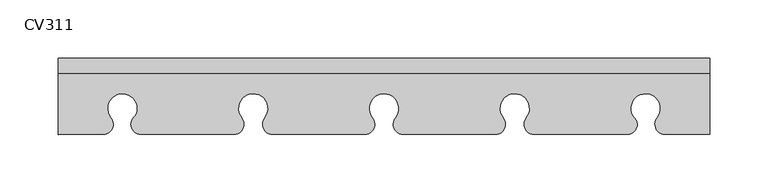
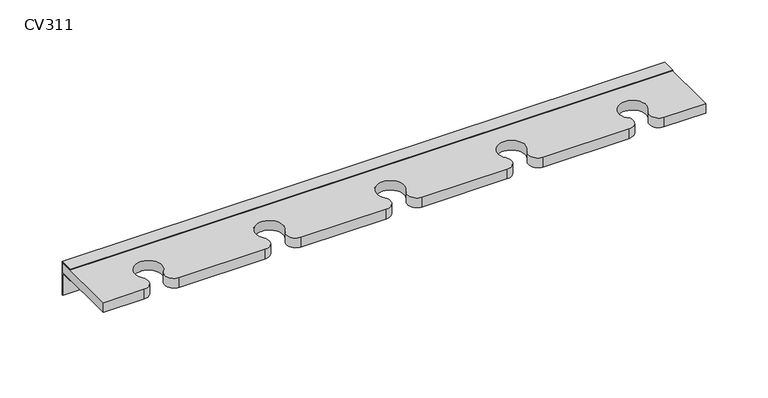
"""IFC4 building model written with IfcOpenShell, lengths in millimetres: furniture geometry, HermanMiller_CoStruc_CV311_DistalTubeBracket : CV311."""

import ifcopenshell
import ifcopenshell.guid

model = None  # the IFC model being written
_history = None  # IfcOwnerHistory: only IFC2X3 demands one
_inside = {}  # id of a spatial element -> (the spatial element, [elements in it])
_under = {}  # id of a project, library or spatial element -> (it, [spatial elements below it])
_declared = {}  # id of a project -> (the project, [libraries it declares])
_typed = {}  # id of a type object -> (the type object, [elements of that type])
_made_of = {}  # id of a material, layer set ... -> (it, [elements and type objects made of it])


def new_model(schema):
    """Start an empty IFC model of exactly this schema.

    Asked for "IFC4X3", IfcOpenShell would pick the latest addendum, in which some entities
    have other attributes; the version numbers below select the first issue.
    IFC2X3 requires an IfcOwnerHistory on every rooted entity: one is made here for all.
    """
    global model, _history
    if schema == "IFC4X3":
        model = ifcopenshell.file(schema_version=(4, 3, 0, 0))
    else:
        model = ifcopenshell.file(schema=schema)
    _inside.clear()
    _under.clear()
    _declared.clear()
    _typed.clear()
    _made_of.clear()
    _history = None
    if model.schema == "IFC2X3":
        org = make("IfcOrganization", Name="unknown")
        user = make(
            "IfcPersonAndOrganization",
            ThePerson=make("IfcPerson", FamilyName="unknown"),
            TheOrganization=org,
        )
        app = make(
            "IfcApplication",
            ApplicationDeveloper=org,
            Version="unknown",
            ApplicationFullName="unknown",
            ApplicationIdentifier="unknown",
        )
        _history = make(
            "IfcOwnerHistory",
            OwningUser=user,
            OwningApplication=app,
            ChangeAction="ADDED",
            CreationDate=0,
        )
    return model


def make(cls, **values):
    """One entity of the class cls with the attributes given. An attribute that is None is left unset."""
    return model.create_entity(
        cls, **{name: value for name, value in values.items() if value is not None}
    )


def rooted(cls, **values):
    """An entity with a GlobalId (a new one), such as an element, a storey or a relation."""
    return make(cls, GlobalId=ifcopenshell.guid.new(), OwnerHistory=_history, **values)


def si_unit(unit_type, name, prefix=None):
    """IfcSIUnit, for example si_unit("LENGTHUNIT", "METRE", prefix="MILLI")."""
    return make("IfcSIUnit", UnitType=unit_type, Prefix=prefix, Name=name)


def assignment(units):
    """IfcUnitAssignment: the units of a project."""
    return None if units is None else make("IfcUnitAssignment", Units=units)


def point(xyz):
    """IfcCartesianPoint."""
    return None if xyz is None else make("IfcCartesianPoint", Coordinates=xyz)


def direction(xyz):
    """IfcDirection."""
    return None if xyz is None else make("IfcDirection", DirectionRatios=xyz)


def frame(location, z_axis=None, x_axis=None):
    """IfcAxis2Placement3D, a coordinate frame: its origin and axes. An axis left out is left unset."""
    return make(
        "IfcAxis2Placement3D",
        Location=point(location),
        Axis=direction(z_axis),
        RefDirection=direction(x_axis),
    )


def origin():
    """The frame at (0, 0, 0) with its axes left unset."""
    return frame((0.0, 0.0, 0.0))


def place(relative_to, where):
    """IfcLocalPlacement: puts the frame where relative to a parent placement (None: the world)."""
    return make(
        "IfcLocalPlacement", PlacementRelTo=relative_to, RelativePlacement=where
    )


def context(
    kind, dimensions, precision=None, world=None, true_north=None, identifier=None
):
    """IfcGeometricRepresentationContext, for example the 3D "Model" context."""
    return make(
        "IfcGeometricRepresentationContext",
        ContextIdentifier=identifier,
        ContextType=kind,
        CoordinateSpaceDimension=dimensions,
        Precision=precision,
        WorldCoordinateSystem=world,
        TrueNorth=true_north,
    )


def project(units=None, contexts=None):
    """IfcProject with its units and contexts."""
    return rooted(
        "IfcProject",
        Name="project",
        RepresentationContexts=contexts,
        UnitsInContext=assignment(units),
    )


def spatial(cls, under=None, at=None, **own):
    """A site, building, storey or space (cls), placed at a placement, below another one or the project."""
    s = rooted(cls, ObjectPlacement=at, **own)
    if under is not None:
        _under.setdefault(under.id(), (under, []))[1].append(s)
    return s


def polyline(points):
    """IfcPolyline through the points."""
    return make("IfcPolyline", Points=[point(p) for p in points])


def circle_curve(where, radius):
    """IfcCircle in the frame where."""
    return make("IfcCircle", Position=where, Radius=radius)


def outline(outer, holes=None, kind="AREA"):
    """IfcArbitraryClosedProfileDef: a profile drawn as a closed curve; with holes, ...WithVoids."""
    if holes is None:
        return make("IfcArbitraryClosedProfileDef", ProfileType=kind, OuterCurve=outer)
    return make(
        "IfcArbitraryProfileDefWithVoids",
        ProfileType=kind,
        OuterCurve=outer,
        InnerCurves=holes,
    )


def extrude(swept, where, along, depth):
    """IfcExtrudedAreaSolid: the profile swept, set in the frame where, extruded along a direction by depth."""
    return make(
        "IfcExtrudedAreaSolid",
        SweptArea=swept,
        Position=where,
        ExtrudedDirection=direction(along),
        Depth=depth,
    )


def shape(context_of_items, identifier, shape_type, items):
    """IfcShapeRepresentation: the items that make up one representation, for example the "Body"."""
    return make(
        "IfcShapeRepresentation",
        ContextOfItems=context_of_items,
        RepresentationIdentifier=identifier,
        RepresentationType=shape_type,
        Items=items,
    )


def source(mapping_origin, context_of_items, identifier, shape_type, items):
    """IfcRepresentationMap: a shape defined once, which mapped items show again and again."""
    return make(
        "IfcRepresentationMap",
        MappingOrigin=mapping_origin,
        MappedRepresentation=shape(context_of_items, identifier, shape_type, items),
    )


def transform(
    local_origin,
    x_axis=None,
    y_axis=None,
    z_axis=None,
    scale=None,
    scale2=None,
    scale3=None,
    uniform=True,
):
    """IfcCartesianTransformationOperator3D, or its non-uniform kind. x_axis, y_axis, z_axis: its Axis1, 2, 3."""
    if uniform:
        return make(
            "IfcCartesianTransformationOperator3D",
            Axis1=direction(x_axis),
            Axis2=direction(y_axis),
            LocalOrigin=point(local_origin),
            Scale=scale,
            Axis3=direction(z_axis),
        )
    return make(
        "IfcCartesianTransformationOperator3DnonUniform",
        Axis1=direction(x_axis),
        Axis2=direction(y_axis),
        LocalOrigin=point(local_origin),
        Scale=scale,
        Axis3=direction(z_axis),
        Scale2=scale2,
        Scale3=scale3,
    )


def mapped(mapping_source, mapping_target):
    """IfcMappedItem: shows the shape of a source again, moved by a transform."""
    return make(
        "IfcMappedItem", MappingSource=mapping_source, MappingTarget=mapping_target
    )


def made_of(thing, what):
    """Note that an element or type object is made of a material, layer set ...; save() writes the relation."""
    if what is not None:
        _made_of.setdefault(what.id(), (what, []))[1].append(thing)
    return thing


def element(
    cls,
    number,
    at=None,
    inside=None,
    cuts=None,
    type_object=None,
    material=None,
    context=None,
    identifier="Body",
    shape_type=None,
    held_by="IfcProductDefinitionShape",
    body=None,
    shapes=None,
    **own,
):
    """One element of the class cls, such as IfcWall. Its Tag is "e" and its number.

    at: its placement. inside: the storey or other place that contains it. cuts: it is an
    opening in that element (IfcRelVoidsElement). A single representation is given by context,
    identifier, shape_type and body (its items); several are given by shapes. held_by: the class
    of the entity that holds the representations. save() writes the other relations.
    """
    e = rooted(cls, Tag="e%d" % number, ObjectPlacement=at, **own)
    if body is not None:
        shapes = [shape(context, identifier, shape_type, body)]
    if shapes is not None:
        e.Representation = make(held_by, Representations=shapes)
    if inside is not None:
        _inside.setdefault(inside.id(), (inside, []))[1].append(e)
    if cuts is not None:
        rooted(
            "IfcRelVoidsElement", RelatingBuildingElement=cuts, RelatedOpeningElement=e
        )
    if type_object is not None:
        _typed.setdefault(type_object.id(), (type_object, []))[1].append(e)
    return made_of(e, material)


def aggregate(whole, parts):
    """IfcRelAggregates: a whole, such as a stair, and the parts it consists of."""
    return rooted("IfcRelAggregates", RelatingObject=whole, RelatedObjects=parts)


def save(model, path):
    """Write the relations noted so far, then the file.

    IfcRelAggregates (storeys below a building ...), IfcRelContainedInSpatialStructure (elements
    in a storey), IfcRelDefinesByType, IfcRelAssociatesMaterial and IfcRelDeclares: one each for
    every whole, place, type object, material and project.
    """
    for whole, parts in _under.values():
        aggregate(whole, parts)
    for where, things in _inside.values():
        rooted(
            "IfcRelContainedInSpatialStructure",
            RelatedElements=things,
            RelatingStructure=where,
        )
    for kind, things in _typed.values():
        rooted("IfcRelDefinesByType", RelatedObjects=things, RelatingType=kind)
    for what, things in _made_of.values():
        rooted("IfcRelAssociatesMaterial", RelatedObjects=things, RelatingMaterial=what)
    for by, libraries in _declared.values():
        rooted("IfcRelDeclares", RelatingContext=by, RelatedDefinitions=libraries)
    model.write(path)


def plane_surface(at):
    """IfcPlane: the flat surface through the origin of the frame at, square to its z axis."""
    return make("IfcPlane", Position=at)


def cylinder_surface(at, radius):
    """IfcCylindricalSurface: all points at the distance radius from the z axis of the frame at."""
    return make("IfcCylindricalSurface", Position=at, Radius=radius)


def revolved_surface(curve, axis_point, axis_direction):
    """IfcSurfaceOfRevolution: the curve turned about the line through axis_point along axis_direction."""
    return make(
        "IfcSurfaceOfRevolution",
        SweptCurve=make("IfcArbitraryOpenProfileDef", ProfileType="CURVE", Curve=curve),
        AxisPosition=make("IfcAxis1Placement", Location=point(axis_point), Axis=direction(axis_direction)),
    )


def advanced_brep(points, edges, surfaces, faces):
    """IfcAdvancedBrep: a solid bounded by faces that lie on surfaces and meet in shared edges.

    An edge is (start, end): straight between two places in points (the first is 0);
    or (start, end, curve); or (start, end, curve, False) where it runs against its curve.
    A face is (place in surfaces, loops), or (place, loops, False) where it looks against
    its surface's normal. A loop lists edges by number (the first is 1), with a minus sign
    where the edge is run from its end to its start. The first loop is the outer one.
    """
    corners = [point(p) for p in points]
    vertices = [make("IfcVertexPoint", VertexGeometry=c) for c in corners]
    made = []
    for start, end, *more in edges:
        made.append(
            make(
                "IfcEdgeCurve",
                EdgeStart=vertices[start],
                EdgeEnd=vertices[end],
                EdgeGeometry=more[0] if more else make("IfcPolyline", Points=[corners[start], corners[end]]),
                SameSense=more[1] if len(more) > 1 else True,
            )
        )
    hull = []
    for where, loops, *sense in faces:
        bounds = []
        for j, loop in enumerate(loops):
            ring = [make("IfcOrientedEdge", EdgeElement=made[abs(k) - 1], Orientation=k > 0) for k in loop]
            bounds.append(
                make(
                    "IfcFaceOuterBound" if j == 0 else "IfcFaceBound",
                    Bound=make("IfcEdgeLoop", EdgeList=ring),
                    Orientation=True,
                )
            )
        hull.append(make("IfcAdvancedFace", Bounds=bounds, FaceSurface=surfaces[where], SameSense=sense[0] if sense else True))
    return make("IfcAdvancedBrep", Outer=make("IfcClosedShell", CfsFaces=hull))


def cv311_0d59ec18(model_context):
    return source(origin(), model_context, "Body", "SolidModel", [
        advanced_brep(
        [(-215.0437613, -50.857361, 841.3749516), (-221.768545, -65.0430502, 841.3749516), (-259.8748951, -65.1002, 841.3749516), (-259.8748951, -0.793747, 841.3749516), (297.3503049, -0.793747, 841.3749516), (297.3503049, -65.0557502, 841.3749516), (259.2503054, -65.0557502, 841.3749516), (252.5255215, -50.870061, 841.3749516), (234.6084309, -52.7605066, 841.3749516), (226.7065555, -65.0557502, 841.3749516), (147.3315551, -65.0557502, 841.3749516), (140.6067711, -50.870061, 841.3749516), (120.8312493, -50.9145106, 841.3749516), (113.9940551, -65.0557502, 841.3749516), (35.4064549, -65.0557502, 841.3749516), (28.6816711, -50.870061, 841.3749516), (8.9061493, -50.9145106, 841.3749516), (2.0689553, -65.0557502, 841.3749516), (-76.5122945, -65.0557502, 841.3749516), (-83.2370785, -50.870061, 841.3749516), (-103.0126003, -50.9145106, 841.3749516), (-109.8497945, -65.0557502, 841.3749516), (-189.2247951, -65.0557502, 841.3749516), (-194.0591205, -49.151624, 841.3749516), (-214.9313509, -50.9145103, 850.8999516), (-194.0591205, -49.151624, 850.8999516), (-189.2247951, -65.0557502, 850.8999516), (-109.8497945, -65.0557502, 850.8999516), (-103.1250107, -50.8700612, 850.8999516), (-83.3494889, -50.9145103, 850.8999516), (-76.5122945, -65.0557502, 850.8999516), (2.0689553, -65.0557502, 850.8999516), (8.7937391, -50.8700612, 850.8999516), (28.5692607, -50.9145103, 850.8999516), (35.4064549, -65.0557502, 850.8999516), (113.9940551, -65.0557502, 850.8999516), (120.7188391, -50.8700612, 850.8999516), (140.4943607, -50.9145103, 850.8999516), (147.3315551, -65.0557502, 850.8999516), (226.7065555, -65.0557502, 850.8999516), (234.6084309, -52.7605066, 850.8999516), (252.4131111, -50.9145103, 850.8999516), (259.2503054, -65.0557502, 850.8999516), (297.3503049, -65.0557502, 850.8999516), (297.3503049, -0.793747, 850.8999516), (-259.8748951, -0.793747, 850.8999516), (-259.8748951, -65.1002, 850.8999516), (-221.7685449, -65.1002, 850.8999516)],
        [
            (0, 1, circle_curve(frame((-221.7685451, -56.35625, 841.3749516), z_axis=(0.0, 0.0, -1.0), x_axis=(-1.0, 0.0, 0.0)), 8.6868002)),
            (1, 2),
            (2, 3),
            (3, 4),
            (4, 5),
            (5, 6),
            (6, 7, circle_curve(frame((259.2503054, -56.36895, 841.3749516), z_axis=(0.0, 0.0, -1.0), x_axis=(-1.0, 0.0, 0.0)), 8.6868002)),
            (7, 8, circle_curve(frame((242.5815553, -42.8752, 841.3749516), z_axis=(0.0, 0.0, 1.0), x_axis=(-1.0, 0.0, 0.0)), 12.7)),
            (8, 9, circle_curve(frame((226.7065555, -56.36895, 841.3749516), z_axis=(0.0, 0.0, -1.0), x_axis=(-1.0, 0.0, 0.0)), 8.6868002)),
            (9, 10),
            (10, 11, circle_curve(frame((147.3315551, -56.3689499, 841.3749516), z_axis=(0.0, 0.0, -1.0), x_axis=(-1.0, 0.0, 0.0)), 8.6868003)),
            (11, 12, circle_curve(frame((130.6628049, -42.8752, 841.3749516), z_axis=(0.0, 0.0, 1.0), x_axis=(-1.0, 0.0, 0.0)), 12.7)),
            (12, 13, circle_curve(frame((113.9940551, -56.36895, 841.3749516), z_axis=(0.0, 0.0, -1.0), x_axis=(-1.0, 0.0, 0.0)), 8.6868002)),
            (13, 14),
            (14, 15, circle_curve(frame((35.4064549, -56.36895, 841.3749516), z_axis=(0.0, 0.0, -1.0), x_axis=(-1.0, 0.0, 0.0)), 8.6868002)),
            (15, 16, circle_curve(frame((18.7377049, -42.8752, 841.3749516), z_axis=(0.0, 0.0, 1.0), x_axis=(-1.0, 0.0, 0.0)), 12.7)),
            (16, 17, circle_curve(frame((2.0689553, -56.3689501, 841.3749516), z_axis=(0.0, 0.0, -1.0), x_axis=(-1.0, 0.0, 0.0)), 8.6868001)),
            (17, 18),
            (18, 19, circle_curve(frame((-76.5122945, -56.3689499, 841.3749516), z_axis=(0.0, 0.0, -1.0), x_axis=(-1.0, 0.0, 0.0)), 8.6868003)),
            (19, 20, circle_curve(frame((-93.1810447, -42.8752, 841.3749516), z_axis=(0.0, 0.0, 1.0), x_axis=(-1.0, 0.0, 0.0)), 12.7)),
            (20, 21, circle_curve(frame((-109.8497945, -56.3689501, 841.3749516), z_axis=(0.0, 0.0, -1.0), x_axis=(-1.0, 0.0, 0.0)), 8.6868001)),
            (21, 22),
            (22, 23, circle_curve(frame((-189.2247951, -56.36895, 841.3749516), z_axis=(0.0, 0.0, -1.0), x_axis=(-1.0, 0.0, 0.0)), 8.6868002)),
            (23, 0, circle_curve(frame((-205.0997953, -42.8751997, 841.3749516), z_axis=(0.0, 0.0, 1.0), x_axis=(-1.0, 0.0, 0.0)), 12.7)),
            (24, 25, circle_curve(frame((-205.0997953, -42.8751997, 850.8999516), z_axis=(0.0, 0.0, -1.0), x_axis=(-1.0, 0.0, 0.0)), 12.7)),
            (25, 26, circle_curve(frame((-189.2247951, -56.36895, 850.8999516), z_axis=(0.0, 0.0, 1.0), x_axis=(-1.0, 0.0, 0.0)), 8.6868002)),
            (26, 27),
            (27, 28, circle_curve(frame((-109.8497945, -56.3689501, 850.8999516), z_axis=(0.0, 0.0, 1.0), x_axis=(-1.0, 0.0, 0.0)), 8.6868001)),
            (28, 29, circle_curve(frame((-93.1810447, -42.8752, 850.8999516), z_axis=(0.0, 0.0, -1.0), x_axis=(-1.0, 0.0, 0.0)), 12.7)),
            (29, 30, circle_curve(frame((-76.5122945, -56.3689499, 850.8999516), z_axis=(0.0, 0.0, 1.0), x_axis=(-1.0, 0.0, 0.0)), 8.6868003)),
            (30, 31),
            (31, 32, circle_curve(frame((2.0689553, -56.3689501, 850.8999516), z_axis=(0.0, 0.0, 1.0), x_axis=(-1.0, 0.0, 0.0)), 8.6868001)),
            (32, 33, circle_curve(frame((18.7377049, -42.8752, 850.8999516), z_axis=(0.0, 0.0, -1.0), x_axis=(-1.0, 0.0, 0.0)), 12.7)),
            (33, 34, circle_curve(frame((35.4064549, -56.36895, 850.8999516), z_axis=(0.0, 0.0, 1.0), x_axis=(-1.0, 0.0, 0.0)), 8.6868002)),
            (34, 35),
            (35, 36, circle_curve(frame((113.9940551, -56.36895, 850.8999516), z_axis=(0.0, 0.0, 1.0), x_axis=(-1.0, 0.0, 0.0)), 8.6868002)),
            (36, 37, circle_curve(frame((130.6628049, -42.8752, 850.8999516), z_axis=(0.0, 0.0, -1.0), x_axis=(-1.0, 0.0, 0.0)), 12.7)),
            (37, 38, circle_curve(frame((147.3315551, -56.3689499, 850.8999516), z_axis=(0.0, 0.0, 1.0), x_axis=(-1.0, 0.0, 0.0)), 8.6868003)),
            (38, 39),
            (39, 40, circle_curve(frame((226.7065555, -56.36895, 850.8999516), z_axis=(0.0, 0.0, 1.0), x_axis=(-1.0, 0.0, 0.0)), 8.6868002)),
            (40, 41, circle_curve(frame((242.5815553, -42.8752, 850.8999516), z_axis=(0.0, 0.0, -1.0), x_axis=(-1.0, 0.0, 0.0)), 12.7)),
            (41, 42, circle_curve(frame((259.2503054, -56.36895, 850.8999516), z_axis=(0.0, 0.0, 1.0), x_axis=(-1.0, 0.0, 0.0)), 8.6868002)),
            (42, 43),
            (43, 44),
            (44, 45),
            (45, 46),
            (46, 47),
            (47, 24, circle_curve(frame((-221.7685451, -56.35625, 850.8999516), z_axis=(0.0, 0.0, 1.0), x_axis=(-1.0, 0.0, 0.0)), 8.6868002)),
            (0, 24),
            (47, 1),
            (46, 2),
            (45, 3),
            (44, 4),
            (43, 5),
            (42, 6),
            (41, 7),
            (40, 8),
            (39, 9),
            (38, 10),
            (37, 11),
            (36, 12),
            (35, 13),
            (34, 14),
            (33, 15),
            (32, 16),
            (31, 17),
            (30, 18),
            (29, 19),
            (28, 20),
            (27, 21),
            (26, 22),
            (25, 23),
        ],
        [
            plane_surface(frame((-230.4553453, -56.35625, 841.3749516), z_axis=(0.0, 0.0, -1.0), x_axis=(0.0, 1.0, 0.0))),
            plane_surface(frame((-230.4553453, -56.35625, 850.8999516), z_axis=(0.0, 0.0, 1.0), x_axis=(0.0, -1.0, 0.0))),
            cylinder_surface(frame((-221.7685451, -56.35625, 850.8999516), z_axis=(0.0, 0.0, -1.0), x_axis=(-1.0, 0.0, 0.0)), 8.6868002),
            plane_surface(frame((-221.7685449, -65.1002, 841.3749516), z_axis=(0.0, -1.0, 0.0), x_axis=(0.0, 0.0, 1.0))),
            plane_surface(frame((-259.8748951, -65.1002, 841.3749516), z_axis=(-1.0, 0.0, 0.0), x_axis=(0.0, 0.0, 1.0))),
            plane_surface(frame((-259.8748951, -0.793747, 841.3749516), z_axis=(0.0, 1.0, 0.0), x_axis=(0.0, 0.0, 1.0))),
            plane_surface(frame((297.3503049, -0.793747, 841.3749516), z_axis=(1.0, 0.0, 0.0), x_axis=(0.0, 0.0, 1.0))),
            plane_surface(frame((297.3503049, -65.0557502, 841.3749516), z_axis=(0.0, -1.0, 0.0), x_axis=(0.0, 0.0, 1.0))),
            cylinder_surface(frame((259.2503054, -56.36895, 850.8999516), z_axis=(0.0, 0.0, -1.0), x_axis=(-1.0, 0.0, 0.0)), 8.6868002),
            revolved_surface(polyline([(229.8815553, -42.8752, 850.8999516), (229.8815553, -42.8752, 841.3749516)]), (242.5815553, -42.8752, 850.8999516), (0.0, 0.0, 1.0)),
            cylinder_surface(frame((226.7065555, -56.36895, 850.8999516), z_axis=(0.0, 0.0, -1.0), x_axis=(-1.0, 0.0, 0.0)), 8.6868002),
            plane_surface(frame((226.7065555, -65.0557502, 841.3749516), z_axis=(0.0, -1.0, 0.0), x_axis=(0.0, 0.0, 1.0))),
            cylinder_surface(frame((147.3315551, -56.3689499, 850.8999516), z_axis=(0.0, 0.0, -1.0), x_axis=(-1.0, 0.0, 0.0)), 8.6868003),
            revolved_surface(polyline([(117.9628049, -42.8752, 850.8999516), (117.9628049, -42.8752, 841.3749516)]), (130.6628049, -42.8752, 850.8999516), (0.0, 0.0, 1.0)),
            cylinder_surface(frame((113.9940551, -56.36895, 850.8999516), z_axis=(0.0, 0.0, -1.0), x_axis=(-1.0, 0.0, 0.0)), 8.6868002),
            plane_surface(frame((113.9940551, -65.0557502, 841.3749516), z_axis=(0.0, -1.0, 0.0), x_axis=(0.0, 0.0, 1.0))),
            cylinder_surface(frame((35.4064549, -56.36895, 850.8999516), z_axis=(0.0, 0.0, -1.0), x_axis=(-1.0, 0.0, 0.0)), 8.6868002),
            revolved_surface(polyline([(6.037704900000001, -42.8752, 850.8999516), (6.037704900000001, -42.8752, 841.3749516)]), (18.7377049, -42.8752, 850.8999516), (0.0, 0.0, 1.0)),
            cylinder_surface(frame((2.0689553, -56.3689501, 850.8999516), z_axis=(0.0, 0.0, -1.0), x_axis=(-1.0, 0.0, 0.0)), 8.6868001),
            plane_surface(frame((2.0689553, -65.0557502, 841.3749516), z_axis=(0.0, -1.0, 0.0), x_axis=(0.0, 0.0, 1.0))),
            cylinder_surface(frame((-76.5122945, -56.3689499, 850.8999516), z_axis=(0.0, 0.0, -1.0), x_axis=(-1.0, 0.0, 0.0)), 8.6868003),
            revolved_surface(polyline([(-105.8810447, -42.8752, 850.8999516), (-105.8810447, -42.8752, 841.3749516)]), (-93.1810447, -42.8752, 850.8999516), (0.0, 0.0, 1.0)),
            cylinder_surface(frame((-109.8497945, -56.3689501, 850.8999516), z_axis=(0.0, 0.0, -1.0), x_axis=(-1.0, 0.0, 0.0)), 8.6868001),
            plane_surface(frame((-109.8497945, -65.0557502, 841.3749516), z_axis=(0.0, -1.0, 0.0), x_axis=(0.0, 0.0, 1.0))),
            cylinder_surface(frame((-189.2247951, -56.36895, 850.8999516), z_axis=(0.0, 0.0, -1.0), x_axis=(-1.0, 0.0, 0.0)), 8.6868002),
            revolved_surface(polyline([(-217.7997953, -42.8751997, 850.8999516), (-217.7997953, -42.8751997, 841.3749516)]), (-205.0997953, -42.8751997, 850.8999516), (0.0, 0.0, 1.0)),
        ],
        [
            (0, [[1, 2, 3, 4, 5, 6, 7, 8, 9, 10, 11, 12, 13, 14, 15, 16, 17, 18, 19, 20, 21, 22, 23, 24]]),
            (1, [[25, 26, 27, 28, 29, 30, 31, 32, 33, 34, 35, 36, 37, 38, 39, 40, 41, 42, 43, 44, 45, 46, 47, 48]]),
            (2, [[-1, 49, -48, 50]]),
            (3, [[-2, -50, -47, 51]]),
            (4, [[-3, -51, -46, 52]]),
            (5, [[-4, -52, -45, 53]]),
            (6, [[-5, -53, -44, 54]]),
            (7, [[-6, -54, -43, 55]]),
            (8, [[-7, -55, -42, 56]]),
            (9, [[-8, -56, -41, 57]]),
            (10, [[-9, -57, -40, 58]]),
            (11, [[-10, -58, -39, 59]]),
            (12, [[-11, -59, -38, 60]]),
            (13, [[-12, -60, -37, 61]]),
            (14, [[-13, -61, -36, 62]]),
            (15, [[-14, -62, -35, 63]]),
            (16, [[-15, -63, -34, 64]]),
            (17, [[-16, -64, -33, 65]]),
            (18, [[-17, -65, -32, 66]]),
            (19, [[-18, -66, -31, 67]]),
            (20, [[-19, -67, -30, 68]]),
            (21, [[-20, -68, -29, 69]]),
            (22, [[-21, -69, -28, 70]]),
            (23, [[-22, -70, -27, 71]]),
            (24, [[-23, -71, -26, 72]]),
            (25, [[-24, -72, -25, -49]]),
        ],
    ),
        extrude(outline(polyline([(-12.699997, 841.3749516), (-0.793747, 841.3749516), (-0.793747, 850.8999516), (-12.699997, 850.8999516), (-12.699997, 851.6936531), (0.0, 851.6936531), (0.0, 819.15), (-0.793747, 819.15), (-0.793747, 840.58125), (-12.699997, 840.58125), (-12.699997, 841.3749516)])), frame((-259.8748951, 0.0, 0.0), z_axis=(1.0, 0.0, 0.0), x_axis=(0.0, 1.0, 0.0)), (0.0, 0.0, 1.0), 557.2252),
    ])


if __name__ == "__main__":
    model = new_model("IFC4")
    model_context = context("Model", 3, world=origin())
    ifc_project = project(units=[si_unit("LENGTHUNIT", "METRE", prefix="MILLI")], contexts=[model_context])
    site = spatial("IfcSite", under=ifc_project)
    building = spatial("IfcBuilding", under=site)
    placement = place(None, origin())
    cv311_shape = cv311_0d59ec18(model_context)
    element("IfcFurniture", 1, ObjectType="HermanMiller_CoStruc_CV311_DistalTubeBracket : CV311", at=placement, inside=building, context=model_context, shape_type="MappedRepresentation", body=[
        mapped(cv311_shape, transform((0.0, 0.0, 0.0), x_axis=(1.0, 0.0, 0.0), y_axis=(0.0, 1.0, 0.0), z_axis=(0.0, 0.0, 1.0))),
    ])
    save(model, "model.ifc")
